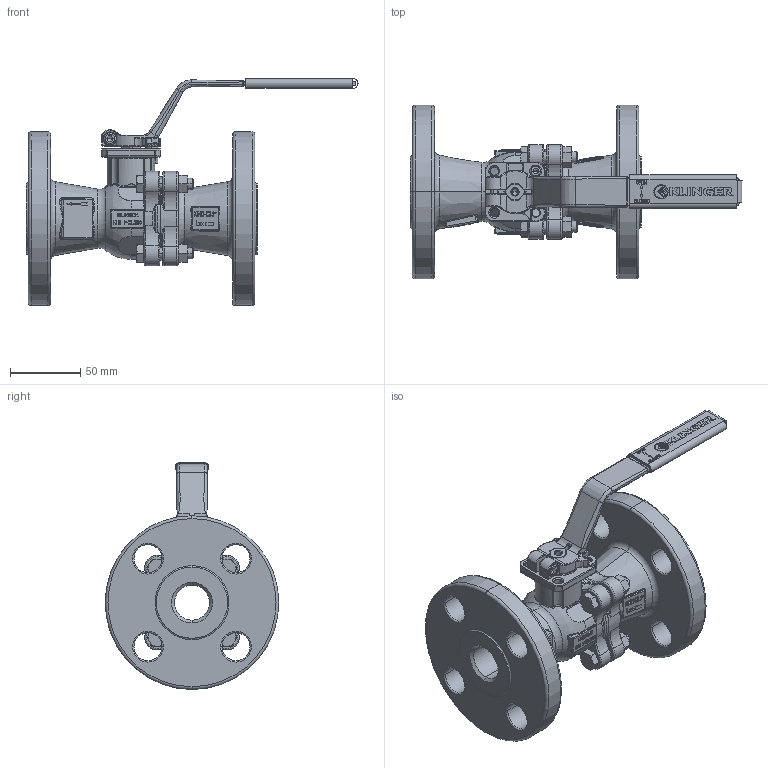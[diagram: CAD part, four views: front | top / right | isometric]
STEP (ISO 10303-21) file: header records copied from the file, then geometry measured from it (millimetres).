
FILE_DESCRIPTION((''),'2;1');
FILE_NAME('KHECL-1-C300_XC','2016-08-29T',('santag'),('RAND'),'PRO/ENGINEER BY PARAMETRIC TECHNOLOGY CORPORATION, 2016100','PRO/ENGINEER BY PARAMETRIC TECHNOLOGY CORPORATION, 2016100','');
FILE_SCHEMA(('CONFIG_CONTROL_DESIGN'));
Products named in the file (1): KHECL-1-C300_XC
Bounding box: 236.95 x 124 x 162.05 mm (x, y, z)
Volume: 610826.6 mm3; surface area: 149325.1 mm2
Topology: 1 solids, 1 shells, 3237 faces, 8345 edges, 5225 vertices
Faces by surface type: plane 1830, cylinder 508, torus 335, bspline 331, cone 196, sphere 37
Entity records: 130639 total; most frequent: CARTESIAN_POINT 53513, ORIENTED_EDGE 16662, DIRECTION 15232, EDGE_CURVE 8331, VECTOR 5336, LINE 5336, VERTEX_POINT 5225, AXIS2_PLACEMENT_3D 4948
